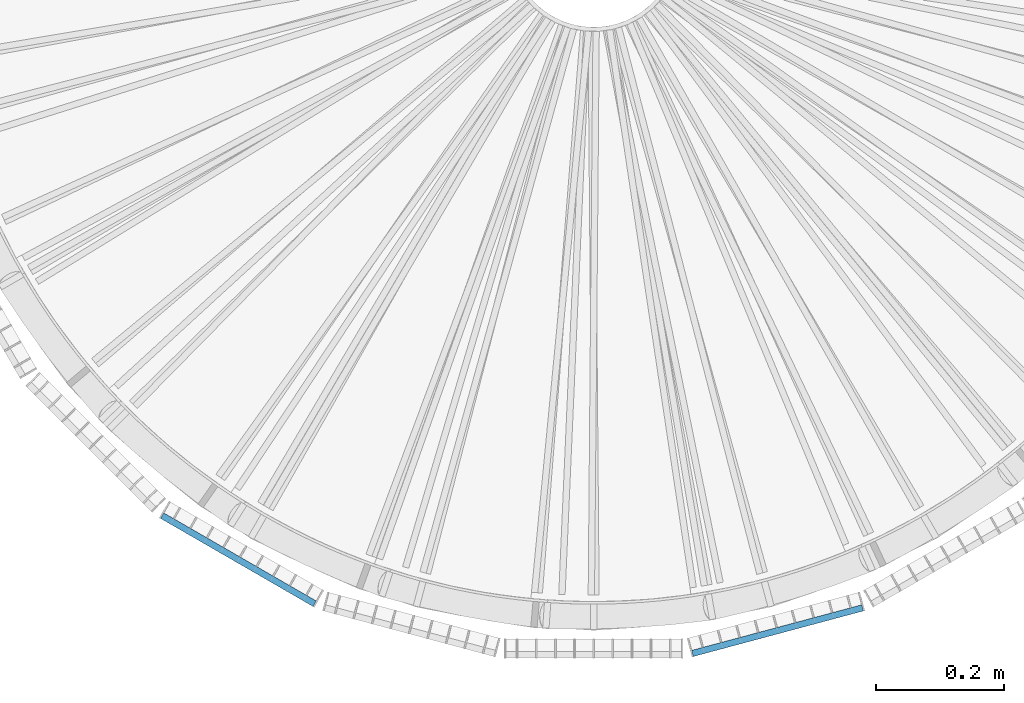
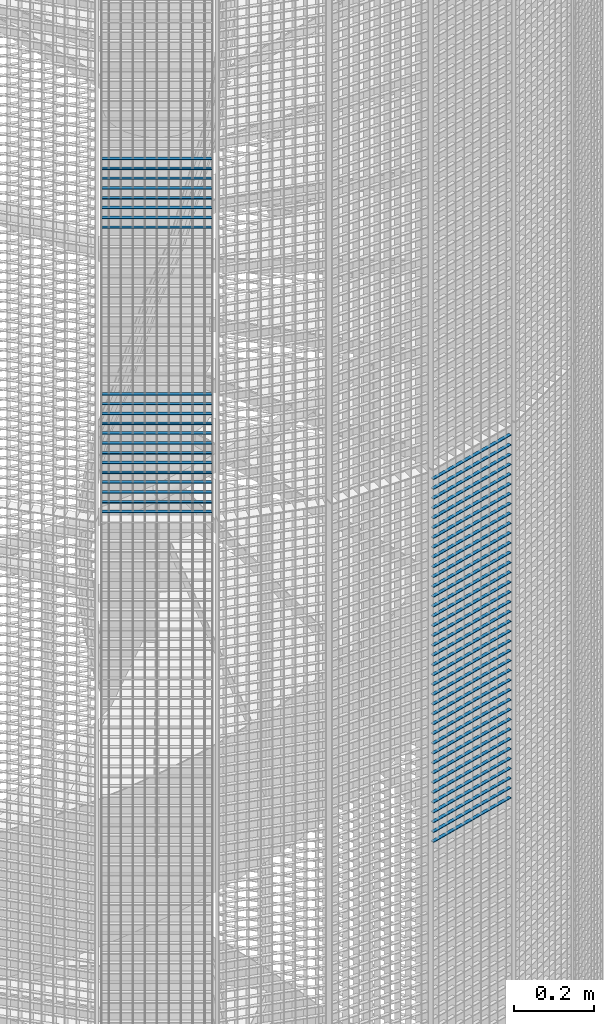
# One storey, part 161 of 1183: 59 beams, 2 elements without a shape of their own.
"""IFC2X3 building model written with IfcOpenShell, lengths in millimetres."""

from ifc_helpers import new_model, si_unit, frame, origin_with_axes, origin_2d_with_axis, place, context, subcontext, project, spatial, rectangle, extrude, material, type_object, element, aggregate, save


model = new_model("IFC2X3")

# Units and contexts
model_context = context("Model", 3, precision=1e-05, world=origin_with_axes())
body_context = subcontext(model_context, "Body", "Model", "MODEL_VIEW")
ifc_project = project(units=[si_unit("LENGTHUNIT", "METRE", prefix="MILLI"), si_unit("AREAUNIT", "SQUARE_METRE"), si_unit("VOLUMEUNIT", "CUBIC_METRE"), si_unit("MASSUNIT", "GRAM", prefix="KILO"), si_unit("TIMEUNIT", "SECOND"), si_unit("PLANEANGLEUNIT", "RADIAN"), si_unit("SOLIDANGLEUNIT", "STERADIAN"), si_unit("THERMODYNAMICTEMPERATUREUNIT", "DEGREE_CELSIUS"), si_unit("LUMINOUSINTENSITYUNIT", "LUMEN")], contexts=[model_context])

# Site, building, storey
site_placement = place(None, origin_with_axes())
site = spatial("IfcSite", under=ifc_project, at=site_placement, Name="Undefined", CompositionType="ELEMENT")
building_placement = place(site_placement, origin_with_axes())
building = spatial("IfcBuilding", under=site, at=building_placement, Name="Undefined", CompositionType="ELEMENT")
storey_placement = place(building_placement, origin_with_axes())
storey = spatial("IfcBuildingStorey", under=building, at=storey_placement, Name="Undefined", CompositionType="ELEMENT", Elevation=0.0)

# Assembly, beams
assembly_1_placement = place(storey_placement, origin_with_axes())
assembly_1 = element("IfcElementAssembly", 1, at=assembly_1_placement, inside=storey, Name="BORDURE", AssemblyPlace="NOTDEFINED", PredefinedType="NOTDEFINED")
ifc_material = material(Name="STEEL/S235JR")
beam_type = type_object("IfcBeamType", Name="PL2*10", PredefinedType="NOTDEFINED")
beam_1_placement = place(assembly_1_placement, frame((-676.248044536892, -895.303964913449, 6900.0), z_axis=(-0.49999999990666, -0.866025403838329, 0.0), x_axis=(0.866025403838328, -0.49999999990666, 0.0)))
beam_1 = element("IfcBeam", 2, at=beam_1_placement, type_object=beam_type, material=ifc_material, Name="ENTRETOISE", context=body_context, shape_type="SweptSolid", body=[
    extrude(rectangle(XDim=2.0, YDim=10.0, at=origin_2d_with_axis()), frame((275.999999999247, 9.09494701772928e-13, 1.53210777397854e-14), z_axis=(-1.0, 0.0, 0.0), x_axis=(0.0, -1.0, 0.0)), (0.0, 0.0, 1.0), 276.0),
])
beam_2_placement = place(assembly_1_placement, frame((-676.24804453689, -895.30396491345, 6390.0), z_axis=(-0.49999999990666, -0.866025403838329, 0.0), x_axis=(0.866025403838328, -0.49999999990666, 0.0)))
beam_2 = element("IfcBeam", 3, at=beam_2_placement, type_object=beam_type, material=ifc_material, Name="ENTRETOISE", context=body_context, shape_type="SweptSolid", body=[
    extrude(rectangle(XDim=2.0, YDim=10.0, at=origin_2d_with_axis()), frame((275.999999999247, 9.09494701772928e-13, 1.53210777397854e-14), z_axis=(-1.0, 0.0, 0.0), x_axis=(0.0, -1.0, 0.0)), (0.0, 0.0, 1.0), 276.0),
])
beam_3_placement = place(assembly_1_placement, frame((-676.248044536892, -895.303964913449, 6930.0), z_axis=(-0.49999999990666, -0.866025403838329, 0.0), x_axis=(0.866025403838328, -0.49999999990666, 0.0)))
beam_3 = element("IfcBeam", 4, at=beam_3_placement, type_object=beam_type, material=ifc_material, Name="ENTRETOISE", context=body_context, shape_type="SweptSolid", body=[
    extrude(rectangle(XDim=2.0, YDim=10.0, at=origin_2d_with_axis()), frame((275.999999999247, 9.09494701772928e-13, 1.53210777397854e-14), z_axis=(-1.0, 0.0, 0.0), x_axis=(0.0, -1.0, 0.0)), (0.0, 0.0, 1.0), 276.0),
])
beam_4_placement = place(assembly_1_placement, frame((-676.24804453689, -895.30396491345, 6360.0), z_axis=(-0.49999999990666, -0.866025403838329, 0.0), x_axis=(0.866025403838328, -0.49999999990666, 0.0)))
beam_4 = element("IfcBeam", 5, at=beam_4_placement, type_object=beam_type, material=ifc_material, Name="ENTRETOISE", context=body_context, shape_type="SweptSolid", body=[
    extrude(rectangle(XDim=2.0, YDim=10.0, at=origin_2d_with_axis()), frame((275.999999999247, 9.09494701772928e-13, 1.53210777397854e-14), z_axis=(-1.0, 0.0, 0.0), x_axis=(0.0, -1.0, 0.0)), (0.0, 0.0, 1.0), 276.0),
])
beam_5_placement = place(assembly_1_placement, frame((-676.24804453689, -895.30396491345, 6330.0), z_axis=(-0.49999999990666, -0.866025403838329, 0.0), x_axis=(0.866025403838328, -0.49999999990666, 0.0)))
beam_5 = element("IfcBeam", 6, at=beam_5_placement, type_object=beam_type, material=ifc_material, Name="ENTRETOISE", context=body_context, shape_type="SweptSolid", body=[
    extrude(rectangle(XDim=2.0, YDim=10.0, at=origin_2d_with_axis()), frame((275.999999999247, 9.09494701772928e-13, 1.53210777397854e-14), z_axis=(-1.0, 0.0, 0.0), x_axis=(0.0, -1.0, 0.0)), (0.0, 0.0, 1.0), 276.0),
])
beam_6_placement = place(assembly_1_placement, frame((-676.248044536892, -895.303964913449, 6960.0), z_axis=(-0.49999999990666, -0.866025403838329, 0.0), x_axis=(0.866025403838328, -0.49999999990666, 0.0)))
beam_6 = element("IfcBeam", 7, at=beam_6_placement, type_object=beam_type, material=ifc_material, Name="ENTRETOISE", context=body_context, shape_type="SweptSolid", body=[
    extrude(rectangle(XDim=2.0, YDim=10.0, at=origin_2d_with_axis()), frame((275.999999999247, 9.09494701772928e-13, 1.53210777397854e-14), z_axis=(-1.0, 0.0, 0.0), x_axis=(0.0, -1.0, 0.0)), (0.0, 0.0, 1.0), 276.0),
])
beam_7_placement = place(assembly_1_placement, frame((-676.24804453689, -895.30396491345, 6300.0), z_axis=(-0.49999999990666, -0.866025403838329, 0.0), x_axis=(0.866025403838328, -0.49999999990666, 0.0)))
beam_7 = element("IfcBeam", 8, at=beam_7_placement, type_object=beam_type, material=ifc_material, Name="ENTRETOISE", context=body_context, shape_type="SweptSolid", body=[
    extrude(rectangle(XDim=2.0, YDim=10.0, at=origin_2d_with_axis()), frame((275.999999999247, 9.09494701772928e-13, 1.53210777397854e-14), z_axis=(-1.0, 0.0, 0.0), x_axis=(0.0, -1.0, 0.0)), (0.0, 0.0, 1.0), 276.0),
])
beam_8_placement = place(assembly_1_placement, frame((-676.24804453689, -895.30396491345, 6270.0), z_axis=(-0.49999999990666, -0.866025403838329, 0.0), x_axis=(0.866025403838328, -0.49999999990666, 0.0)))
beam_8 = element("IfcBeam", 9, at=beam_8_placement, type_object=beam_type, material=ifc_material, Name="ENTRETOISE", context=body_context, shape_type="SweptSolid", body=[
    extrude(rectangle(XDim=2.0, YDim=10.0, at=origin_2d_with_axis()), frame((275.999999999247, 9.09494701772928e-13, 1.53210777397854e-14), z_axis=(-1.0, 0.0, 0.0), x_axis=(0.0, -1.0, 0.0)), (0.0, 0.0, 1.0), 276.0),
])
beam_9_placement = place(assembly_1_placement, frame((-676.248044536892, -895.303964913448, 6990.0), z_axis=(-0.49999999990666, -0.866025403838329, 0.0), x_axis=(0.866025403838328, -0.49999999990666, 0.0)))
beam_9 = element("IfcBeam", 10, at=beam_9_placement, type_object=beam_type, material=ifc_material, Name="ENTRETOISE", context=body_context, shape_type="SweptSolid", body=[
    extrude(rectangle(XDim=2.0, YDim=10.0, at=origin_2d_with_axis()), frame((275.999999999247, 9.09494701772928e-13, 1.53210777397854e-14), z_axis=(-1.0, 0.0, 0.0), x_axis=(0.0, -1.0, 0.0)), (0.0, 0.0, 1.0), 276.0),
])
beam_10_placement = place(assembly_1_placement, frame((-676.24804453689, -895.30396491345, 6240.0), z_axis=(-0.49999999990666, -0.866025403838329, 0.0), x_axis=(0.866025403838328, -0.49999999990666, 0.0)))
beam_10 = element("IfcBeam", 11, at=beam_10_placement, type_object=beam_type, material=ifc_material, Name="ENTRETOISE", context=body_context, shape_type="SweptSolid", body=[
    extrude(rectangle(XDim=2.0, YDim=10.0, at=origin_2d_with_axis()), frame((275.999999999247, 9.09494701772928e-13, 1.53210777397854e-14), z_axis=(-1.0, 0.0, 0.0), x_axis=(0.0, -1.0, 0.0)), (0.0, 0.0, 1.0), 276.0),
])
beam_11_placement = place(assembly_1_placement, frame((-676.248044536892, -895.303964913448, 7020.0), z_axis=(-0.49999999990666, -0.866025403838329, 0.0), x_axis=(0.866025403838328, -0.49999999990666, 0.0)))
beam_11 = element("IfcBeam", 12, at=beam_11_placement, type_object=beam_type, material=ifc_material, Name="ENTRETOISE", context=body_context, shape_type="SweptSolid", body=[
    extrude(rectangle(XDim=2.0, YDim=10.0, at=origin_2d_with_axis()), frame((275.999999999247, 9.09494701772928e-13, 1.53210777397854e-14), z_axis=(-1.0, 0.0, 0.0), x_axis=(0.0, -1.0, 0.0)), (0.0, 0.0, 1.0), 276.0),
])
beam_12_placement = place(assembly_1_placement, frame((-676.24804453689, -895.30396491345, 6210.0), z_axis=(-0.49999999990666, -0.866025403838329, 0.0), x_axis=(0.866025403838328, -0.49999999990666, 0.0)))
beam_12 = element("IfcBeam", 13, at=beam_12_placement, type_object=beam_type, material=ifc_material, Name="ENTRETOISE", context=body_context, shape_type="SweptSolid", body=[
    extrude(rectangle(XDim=2.0, YDim=10.0, at=origin_2d_with_axis()), frame((275.999999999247, 9.09494701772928e-13, 1.53210777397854e-14), z_axis=(-1.0, 0.0, 0.0), x_axis=(0.0, -1.0, 0.0)), (0.0, 0.0, 1.0), 276.0),
])
beam_13_placement = place(assembly_1_placement, frame((-676.24804453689, -895.30396491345, 6180.0), z_axis=(-0.49999999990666, -0.866025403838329, 0.0), x_axis=(0.866025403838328, -0.49999999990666, 0.0)))
beam_13 = element("IfcBeam", 14, at=beam_13_placement, type_object=beam_type, material=ifc_material, Name="ENTRETOISE", context=body_context, shape_type="SweptSolid", body=[
    extrude(rectangle(XDim=2.0, YDim=10.0, at=origin_2d_with_axis()), frame((275.999999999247, 9.09494701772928e-13, 1.53210777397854e-14), z_axis=(-1.0, 0.0, 0.0), x_axis=(0.0, -1.0, 0.0)), (0.0, 0.0, 1.0), 276.0),
])
beam_14_placement = place(assembly_1_placement, frame((-676.248044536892, -895.303964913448, 7050.0), z_axis=(-0.49999999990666, -0.866025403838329, 0.0), x_axis=(0.866025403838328, -0.49999999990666, 0.0)))
beam_14 = element("IfcBeam", 15, at=beam_14_placement, type_object=beam_type, material=ifc_material, Name="ENTRETOISE", context=body_context, shape_type="SweptSolid", body=[
    extrude(rectangle(XDim=2.0, YDim=10.0, at=origin_2d_with_axis()), frame((275.999999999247, 9.09494701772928e-13, 1.53210777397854e-14), z_axis=(-1.0, 0.0, 0.0), x_axis=(0.0, -1.0, 0.0)), (0.0, 0.0, 1.0), 276.0),
])
beam_15_placement = place(assembly_1_placement, frame((-676.24804453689, -895.30396491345, 6150.0), z_axis=(-0.49999999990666, -0.866025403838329, 0.0), x_axis=(0.866025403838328, -0.49999999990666, 0.0)))
beam_15 = element("IfcBeam", 16, at=beam_15_placement, type_object=beam_type, material=ifc_material, Name="ENTRETOISE", context=body_context, shape_type="SweptSolid", body=[
    extrude(rectangle(XDim=2.0, YDim=10.0, at=origin_2d_with_axis()), frame((275.999999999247, 9.09494701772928e-13, 1.53210777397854e-14), z_axis=(-1.0, 0.0, 0.0), x_axis=(0.0, -1.0, 0.0)), (0.0, 0.0, 1.0), 276.0),
])
beam_16_placement = place(assembly_1_placement, frame((-676.248044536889, -895.30396491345, 6120.0), z_axis=(-0.49999999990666, -0.866025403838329, 0.0), x_axis=(0.866025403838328, -0.49999999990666, 0.0)))
beam_16 = element("IfcBeam", 17, at=beam_16_placement, type_object=beam_type, material=ifc_material, Name="ENTRETOISE", context=body_context, shape_type="SweptSolid", body=[
    extrude(rectangle(XDim=2.0, YDim=10.0, at=origin_2d_with_axis()), frame((275.999999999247, 9.09494701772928e-13, 1.53210777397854e-14), z_axis=(-1.0, 0.0, 0.0), x_axis=(0.0, -1.0, 0.0)), (0.0, 0.0, 1.0), 276.0),
])
beam_17_placement = place(assembly_1_placement, frame((-676.248044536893, -895.303964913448, 7080.0), z_axis=(-0.49999999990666, -0.866025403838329, 0.0), x_axis=(0.866025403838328, -0.49999999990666, 0.0)))
beam_17 = element("IfcBeam", 18, at=beam_17_placement, type_object=beam_type, material=ifc_material, Name="ENTRETOISE", context=body_context, shape_type="SweptSolid", body=[
    extrude(rectangle(XDim=2.0, YDim=10.0, at=origin_2d_with_axis()), frame((275.999999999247, 9.09494701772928e-13, 1.53210777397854e-14), z_axis=(-1.0, 0.0, 0.0), x_axis=(0.0, -1.0, 0.0)), (0.0, 0.0, 1.0), 276.0),
])
beam_18_placement = place(assembly_1_placement, frame((-676.248044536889, -895.30396491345, 6090.0), z_axis=(-0.49999999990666, -0.866025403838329, 0.0), x_axis=(0.866025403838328, -0.49999999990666, 0.0)))
beam_18 = element("IfcBeam", 19, at=beam_18_placement, type_object=beam_type, material=ifc_material, Name="ENTRETOISE", context=body_context, shape_type="SweptSolid", body=[
    extrude(rectangle(XDim=2.0, YDim=10.0, at=origin_2d_with_axis()), frame((275.999999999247, 9.09494701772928e-13, 1.53210777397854e-14), z_axis=(-1.0, 0.0, 0.0), x_axis=(0.0, -1.0, 0.0)), (0.0, 0.0, 1.0), 276.0),
])
beam_19_placement = place(assembly_1_placement, frame((-676.248044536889, -895.30396491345, 6060.0), z_axis=(-0.49999999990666, -0.866025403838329, 0.0), x_axis=(0.866025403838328, -0.49999999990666, 0.0)))
beam_19 = element("IfcBeam", 20, at=beam_19_placement, type_object=beam_type, material=ifc_material, Name="ENTRETOISE", context=body_context, shape_type="SweptSolid", body=[
    extrude(rectangle(XDim=2.0, YDim=10.0, at=origin_2d_with_axis()), frame((275.999999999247, 9.09494701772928e-13, 1.53210777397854e-14), z_axis=(-1.0, 0.0, 0.0), x_axis=(0.0, -1.0, 0.0)), (0.0, 0.0, 1.0), 276.0),
])
beam_20_placement = place(assembly_1_placement, frame((-676.248044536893, -895.303964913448, 7110.0), z_axis=(-0.49999999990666, -0.866025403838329, 0.0), x_axis=(0.866025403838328, -0.49999999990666, 0.0)))
beam_20 = element("IfcBeam", 21, at=beam_20_placement, type_object=beam_type, material=ifc_material, Name="ENTRETOISE", context=body_context, shape_type="SweptSolid", body=[
    extrude(rectangle(XDim=2.0, YDim=10.0, at=origin_2d_with_axis()), frame((275.999999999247, 9.09494701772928e-13, 1.53210777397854e-14), z_axis=(-1.0, 0.0, 0.0), x_axis=(0.0, -1.0, 0.0)), (0.0, 0.0, 1.0), 276.0),
])
beam_21_placement = place(assembly_1_placement, frame((-676.248044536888, -895.30396491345, 6030.0), z_axis=(-0.49999999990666, -0.866025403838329, 0.0), x_axis=(0.866025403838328, -0.49999999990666, 0.0)))
beam_21 = element("IfcBeam", 22, at=beam_21_placement, type_object=beam_type, material=ifc_material, Name="ENTRETOISE", context=body_context, shape_type="SweptSolid", body=[
    extrude(rectangle(XDim=2.0, YDim=10.0, at=origin_2d_with_axis()), frame((275.999999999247, 9.09494701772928e-13, 1.53210777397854e-14), z_axis=(-1.0, 0.0, 0.0), x_axis=(0.0, -1.0, 0.0)), (0.0, 0.0, 1.0), 276.0),
])
aggregate(assembly_1, [beam_1, beam_2, beam_3, beam_4, beam_5, beam_6, beam_7, beam_8, beam_9, beam_10, beam_11, beam_12, beam_13, beam_14, beam_15, beam_16, beam_17, beam_18, beam_19, beam_20, beam_21])

assembly_2_placement = place(storey_placement, origin_with_axes())
assembly_2 = element("IfcElementAssembly", 23, at=assembly_2_placement, inside=storey, Name="BORDURE", AssemblyPlace="NOTDEFINED", PredefinedType="NOTDEFINED")
beam_22_placement = place(assembly_2_placement, frame((154.895926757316, -1111.25508286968, 5970.0), z_axis=(0.258819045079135, -0.965925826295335, 0.0), x_axis=(0.965925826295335, 0.258819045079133, 0.0)))
beam_22 = element("IfcBeam", 24, at=beam_22_placement, type_object=beam_type, material=ifc_material, Name="ENTRETOISE", context=body_context, shape_type="SweptSolid", body=[
    extrude(rectangle(XDim=2.0, YDim=10.0, at=origin_2d_with_axis()), frame((275.999999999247, 9.09494701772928e-13, 1.53210777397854e-14), z_axis=(-1.0, 0.0, 0.0), x_axis=(0.0, -1.0, 0.0)), (0.0, 0.0, 1.0), 276.0),
])
beam_23_placement = place(assembly_2_placement, frame((154.895926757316, -1111.25508286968, 5940.0), z_axis=(0.258819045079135, -0.965925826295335, 0.0), x_axis=(0.965925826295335, 0.258819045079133, 0.0)))
beam_23 = element("IfcBeam", 25, at=beam_23_placement, type_object=beam_type, material=ifc_material, Name="ENTRETOISE", context=body_context, shape_type="SweptSolid", body=[
    extrude(rectangle(XDim=2.0, YDim=10.0, at=origin_2d_with_axis()), frame((275.999999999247, 9.09494701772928e-13, 1.53210777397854e-14), z_axis=(-1.0, 0.0, 0.0), x_axis=(0.0, -1.0, 0.0)), (0.0, 0.0, 1.0), 276.0),
])
beam_24_placement = place(assembly_2_placement, frame((154.895926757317, -1111.25508286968, 5910.0), z_axis=(0.258819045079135, -0.965925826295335, 0.0), x_axis=(0.965925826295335, 0.258819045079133, 0.0)))
beam_24 = element("IfcBeam", 26, at=beam_24_placement, type_object=beam_type, material=ifc_material, Name="ENTRETOISE", context=body_context, shape_type="SweptSolid", body=[
    extrude(rectangle(XDim=2.0, YDim=10.0, at=origin_2d_with_axis()), frame((275.999999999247, 9.09494701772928e-13, 1.53210777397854e-14), z_axis=(-1.0, 0.0, 0.0), x_axis=(0.0, -1.0, 0.0)), (0.0, 0.0, 1.0), 276.0),
])
beam_25_placement = place(assembly_2_placement, frame((154.895926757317, -1111.25508286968, 5880.0), z_axis=(0.258819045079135, -0.965925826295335, 0.0), x_axis=(0.965925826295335, 0.258819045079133, 0.0)))
beam_25 = element("IfcBeam", 27, at=beam_25_placement, type_object=beam_type, material=ifc_material, Name="ENTRETOISE", context=body_context, shape_type="SweptSolid", body=[
    extrude(rectangle(XDim=2.0, YDim=10.0, at=origin_2d_with_axis()), frame((275.999999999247, 9.09494701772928e-13, 1.53210777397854e-14), z_axis=(-1.0, 0.0, 0.0), x_axis=(0.0, -1.0, 0.0)), (0.0, 0.0, 1.0), 276.0),
])
beam_26_placement = place(assembly_2_placement, frame((154.895926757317, -1111.25508286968, 5850.0), z_axis=(0.258819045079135, -0.965925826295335, 0.0), x_axis=(0.965925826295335, 0.258819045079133, 0.0)))
beam_26 = element("IfcBeam", 28, at=beam_26_placement, type_object=beam_type, material=ifc_material, Name="ENTRETOISE", context=body_context, shape_type="SweptSolid", body=[
    extrude(rectangle(XDim=2.0, YDim=10.0, at=origin_2d_with_axis()), frame((275.999999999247, 9.09494701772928e-13, 1.53210777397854e-14), z_axis=(-1.0, 0.0, 0.0), x_axis=(0.0, -1.0, 0.0)), (0.0, 0.0, 1.0), 276.0),
])
beam_27_placement = place(assembly_2_placement, frame((154.895926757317, -1111.25508286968, 5820.0), z_axis=(0.258819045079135, -0.965925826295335, 0.0), x_axis=(0.965925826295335, 0.258819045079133, 0.0)))
beam_27 = element("IfcBeam", 29, at=beam_27_placement, type_object=beam_type, material=ifc_material, Name="ENTRETOISE", context=body_context, shape_type="SweptSolid", body=[
    extrude(rectangle(XDim=2.0, YDim=10.0, at=origin_2d_with_axis()), frame((275.999999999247, 9.09494701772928e-13, 1.53210777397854e-14), z_axis=(-1.0, 0.0, 0.0), x_axis=(0.0, -1.0, 0.0)), (0.0, 0.0, 1.0), 276.0),
])
beam_28_placement = place(assembly_2_placement, frame((154.895926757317, -1111.25508286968, 5790.0), z_axis=(0.258819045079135, -0.965925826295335, 0.0), x_axis=(0.965925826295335, 0.258819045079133, 0.0)))
beam_28 = element("IfcBeam", 30, at=beam_28_placement, type_object=beam_type, material=ifc_material, Name="ENTRETOISE", context=body_context, shape_type="SweptSolid", body=[
    extrude(rectangle(XDim=2.0, YDim=10.0, at=origin_2d_with_axis()), frame((275.999999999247, 9.09494701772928e-13, 1.53210777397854e-14), z_axis=(-1.0, 0.0, 0.0), x_axis=(0.0, -1.0, 0.0)), (0.0, 0.0, 1.0), 276.0),
])
beam_29_placement = place(assembly_2_placement, frame((154.895926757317, -1111.25508286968, 5760.0), z_axis=(0.258819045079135, -0.965925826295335, 0.0), x_axis=(0.965925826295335, 0.258819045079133, 0.0)))
beam_29 = element("IfcBeam", 31, at=beam_29_placement, type_object=beam_type, material=ifc_material, Name="ENTRETOISE", context=body_context, shape_type="SweptSolid", body=[
    extrude(rectangle(XDim=2.0, YDim=10.0, at=origin_2d_with_axis()), frame((275.999999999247, 9.09494701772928e-13, 1.53210777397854e-14), z_axis=(-1.0, 0.0, 0.0), x_axis=(0.0, -1.0, 0.0)), (0.0, 0.0, 1.0), 276.0),
])
beam_30_placement = place(assembly_2_placement, frame((154.895926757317, -1111.25508286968, 5730.0), z_axis=(0.258819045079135, -0.965925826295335, 0.0), x_axis=(0.965925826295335, 0.258819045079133, 0.0)))
beam_30 = element("IfcBeam", 32, at=beam_30_placement, type_object=beam_type, material=ifc_material, Name="ENTRETOISE", context=body_context, shape_type="SweptSolid", body=[
    extrude(rectangle(XDim=2.0, YDim=10.0, at=origin_2d_with_axis()), frame((275.999999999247, 9.09494701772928e-13, 1.53210777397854e-14), z_axis=(-1.0, 0.0, 0.0), x_axis=(0.0, -1.0, 0.0)), (0.0, 0.0, 1.0), 276.0),
])
beam_31_placement = place(assembly_2_placement, frame((154.895926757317, -1111.25508286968, 5700.0), z_axis=(0.258819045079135, -0.965925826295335, 0.0), x_axis=(0.965925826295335, 0.258819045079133, 0.0)))
beam_31 = element("IfcBeam", 33, at=beam_31_placement, type_object=beam_type, material=ifc_material, Name="ENTRETOISE", context=body_context, shape_type="SweptSolid", body=[
    extrude(rectangle(XDim=2.0, YDim=10.0, at=origin_2d_with_axis()), frame((275.999999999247, 9.09494701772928e-13, 1.53210777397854e-14), z_axis=(-1.0, 0.0, 0.0), x_axis=(0.0, -1.0, 0.0)), (0.0, 0.0, 1.0), 276.0),
])
beam_32_placement = place(assembly_2_placement, frame((154.895926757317, -1111.25508286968, 5670.0), z_axis=(0.258819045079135, -0.965925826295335, 0.0), x_axis=(0.965925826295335, 0.258819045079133, 0.0)))
beam_32 = element("IfcBeam", 34, at=beam_32_placement, type_object=beam_type, material=ifc_material, Name="ENTRETOISE", context=body_context, shape_type="SweptSolid", body=[
    extrude(rectangle(XDim=2.0, YDim=10.0, at=origin_2d_with_axis()), frame((275.999999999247, 9.09494701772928e-13, 1.53210777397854e-14), z_axis=(-1.0, 0.0, 0.0), x_axis=(0.0, -1.0, 0.0)), (0.0, 0.0, 1.0), 276.0),
])
beam_33_placement = place(assembly_2_placement, frame((154.895926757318, -1111.25508286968, 5640.0), z_axis=(0.258819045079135, -0.965925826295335, 0.0), x_axis=(0.965925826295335, 0.258819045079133, 0.0)))
beam_33 = element("IfcBeam", 35, at=beam_33_placement, type_object=beam_type, material=ifc_material, Name="ENTRETOISE", context=body_context, shape_type="SweptSolid", body=[
    extrude(rectangle(XDim=2.0, YDim=10.0, at=origin_2d_with_axis()), frame((275.999999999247, 9.09494701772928e-13, 1.53210777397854e-14), z_axis=(-1.0, 0.0, 0.0), x_axis=(0.0, -1.0, 0.0)), (0.0, 0.0, 1.0), 276.0),
])
beam_34_placement = place(assembly_2_placement, frame((154.895926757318, -1111.25508286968, 5610.0), z_axis=(0.258819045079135, -0.965925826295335, 0.0), x_axis=(0.965925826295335, 0.258819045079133, 0.0)))
beam_34 = element("IfcBeam", 36, at=beam_34_placement, type_object=beam_type, material=ifc_material, Name="ENTRETOISE", context=body_context, shape_type="SweptSolid", body=[
    extrude(rectangle(XDim=2.0, YDim=10.0, at=origin_2d_with_axis()), frame((275.999999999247, 9.09494701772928e-13, 1.53210777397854e-14), z_axis=(-1.0, 0.0, 0.0), x_axis=(0.0, -1.0, 0.0)), (0.0, 0.0, 1.0), 276.0),
])
beam_35_placement = place(assembly_2_placement, frame((154.895926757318, -1111.25508286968, 5580.0), z_axis=(0.258819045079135, -0.965925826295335, 0.0), x_axis=(0.965925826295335, 0.258819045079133, 0.0)))
beam_35 = element("IfcBeam", 37, at=beam_35_placement, type_object=beam_type, material=ifc_material, Name="ENTRETOISE", context=body_context, shape_type="SweptSolid", body=[
    extrude(rectangle(XDim=2.0, YDim=10.0, at=origin_2d_with_axis()), frame((275.999999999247, 9.09494701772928e-13, 1.53210777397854e-14), z_axis=(-1.0, 0.0, 0.0), x_axis=(0.0, -1.0, 0.0)), (0.0, 0.0, 1.0), 276.0),
])
beam_36_placement = place(assembly_2_placement, frame((154.895926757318, -1111.25508286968, 5550.0), z_axis=(0.258819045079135, -0.965925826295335, 0.0), x_axis=(0.965925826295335, 0.258819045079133, 0.0)))
beam_36 = element("IfcBeam", 38, at=beam_36_placement, type_object=beam_type, material=ifc_material, Name="ENTRETOISE", context=body_context, shape_type="SweptSolid", body=[
    extrude(rectangle(XDim=2.0, YDim=10.0, at=origin_2d_with_axis()), frame((275.999999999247, 9.09494701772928e-13, 1.53210777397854e-14), z_axis=(-1.0, 0.0, 0.0), x_axis=(0.0, -1.0, 0.0)), (0.0, 0.0, 1.0), 276.0),
])
beam_37_placement = place(assembly_2_placement, frame((154.895926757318, -1111.25508286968, 5520.0), z_axis=(0.258819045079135, -0.965925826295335, 0.0), x_axis=(0.965925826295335, 0.258819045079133, 0.0)))
beam_37 = element("IfcBeam", 39, at=beam_37_placement, type_object=beam_type, material=ifc_material, Name="ENTRETOISE", context=body_context, shape_type="SweptSolid", body=[
    extrude(rectangle(XDim=2.0, YDim=10.0, at=origin_2d_with_axis()), frame((275.999999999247, 9.09494701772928e-13, 1.53210777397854e-14), z_axis=(-1.0, 0.0, 0.0), x_axis=(0.0, -1.0, 0.0)), (0.0, 0.0, 1.0), 276.0),
])
beam_38_placement = place(assembly_2_placement, frame((154.895926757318, -1111.25508286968, 5490.0), z_axis=(0.258819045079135, -0.965925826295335, 0.0), x_axis=(0.965925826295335, 0.258819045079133, 0.0)))
beam_38 = element("IfcBeam", 40, at=beam_38_placement, type_object=beam_type, material=ifc_material, Name="ENTRETOISE", context=body_context, shape_type="SweptSolid", body=[
    extrude(rectangle(XDim=2.0, YDim=10.0, at=origin_2d_with_axis()), frame((275.999999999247, 9.09494701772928e-13, 1.53210777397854e-14), z_axis=(-1.0, 0.0, 0.0), x_axis=(0.0, -1.0, 0.0)), (0.0, 0.0, 1.0), 276.0),
])
beam_39_placement = place(assembly_2_placement, frame((154.895926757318, -1111.25508286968, 5460.0), z_axis=(0.258819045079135, -0.965925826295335, 0.0), x_axis=(0.965925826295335, 0.258819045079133, 0.0)))
beam_39 = element("IfcBeam", 41, at=beam_39_placement, type_object=beam_type, material=ifc_material, Name="ENTRETOISE", context=body_context, shape_type="SweptSolid", body=[
    extrude(rectangle(XDim=2.0, YDim=10.0, at=origin_2d_with_axis()), frame((275.999999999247, 9.09494701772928e-13, 1.53210777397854e-14), z_axis=(-1.0, 0.0, 0.0), x_axis=(0.0, -1.0, 0.0)), (0.0, 0.0, 1.0), 276.0),
])
beam_40_placement = place(assembly_2_placement, frame((154.895926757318, -1111.25508286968, 5430.0), z_axis=(0.258819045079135, -0.965925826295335, 0.0), x_axis=(0.965925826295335, 0.258819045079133, 0.0)))
beam_40 = element("IfcBeam", 42, at=beam_40_placement, type_object=beam_type, material=ifc_material, Name="ENTRETOISE", context=body_context, shape_type="SweptSolid", body=[
    extrude(rectangle(XDim=2.0, YDim=10.0, at=origin_2d_with_axis()), frame((275.999999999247, 9.09494701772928e-13, 1.53210777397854e-14), z_axis=(-1.0, 0.0, 0.0), x_axis=(0.0, -1.0, 0.0)), (0.0, 0.0, 1.0), 276.0),
])
beam_41_placement = place(assembly_2_placement, frame((154.895926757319, -1111.25508286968, 5400.0), z_axis=(0.258819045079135, -0.965925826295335, 0.0), x_axis=(0.965925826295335, 0.258819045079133, 0.0)))
beam_41 = element("IfcBeam", 43, at=beam_41_placement, type_object=beam_type, material=ifc_material, Name="ENTRETOISE", context=body_context, shape_type="SweptSolid", body=[
    extrude(rectangle(XDim=2.0, YDim=10.0, at=origin_2d_with_axis()), frame((275.999999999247, 9.09494701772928e-13, 1.53210777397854e-14), z_axis=(-1.0, 0.0, 0.0), x_axis=(0.0, -1.0, 0.0)), (0.0, 0.0, 1.0), 276.0),
])
beam_42_placement = place(assembly_2_placement, frame((154.895926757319, -1111.25508286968, 5370.0), z_axis=(0.258819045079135, -0.965925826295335, 0.0), x_axis=(0.965925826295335, 0.258819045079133, 0.0)))
beam_42 = element("IfcBeam", 44, at=beam_42_placement, type_object=beam_type, material=ifc_material, Name="ENTRETOISE", context=body_context, shape_type="SweptSolid", body=[
    extrude(rectangle(XDim=2.0, YDim=10.0, at=origin_2d_with_axis()), frame((275.999999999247, 9.09494701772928e-13, 1.53210777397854e-14), z_axis=(-1.0, 0.0, 0.0), x_axis=(0.0, -1.0, 0.0)), (0.0, 0.0, 1.0), 276.0),
])
beam_43_placement = place(assembly_2_placement, frame((154.895926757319, -1111.25508286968, 5340.0), z_axis=(0.258819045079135, -0.965925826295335, 0.0), x_axis=(0.965925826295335, 0.258819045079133, 0.0)))
beam_43 = element("IfcBeam", 45, at=beam_43_placement, type_object=beam_type, material=ifc_material, Name="ENTRETOISE", context=body_context, shape_type="SweptSolid", body=[
    extrude(rectangle(XDim=2.0, YDim=10.0, at=origin_2d_with_axis()), frame((275.999999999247, 9.09494701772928e-13, 1.53210777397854e-14), z_axis=(-1.0, 0.0, 0.0), x_axis=(0.0, -1.0, 0.0)), (0.0, 0.0, 1.0), 276.0),
])
beam_44_placement = place(assembly_2_placement, frame((154.895926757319, -1111.25508286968, 5310.0), z_axis=(0.258819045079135, -0.965925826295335, 0.0), x_axis=(0.965925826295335, 0.258819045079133, 0.0)))
beam_44 = element("IfcBeam", 46, at=beam_44_placement, type_object=beam_type, material=ifc_material, Name="ENTRETOISE", context=body_context, shape_type="SweptSolid", body=[
    extrude(rectangle(XDim=2.0, YDim=10.0, at=origin_2d_with_axis()), frame((275.999999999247, 9.09494701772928e-13, 1.53210777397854e-14), z_axis=(-1.0, 0.0, 0.0), x_axis=(0.0, -1.0, 0.0)), (0.0, 0.0, 1.0), 276.0),
])
beam_45_placement = place(assembly_2_placement, frame((154.895926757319, -1111.25508286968, 5280.0), z_axis=(0.258819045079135, -0.965925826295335, 0.0), x_axis=(0.965925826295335, 0.258819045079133, 0.0)))
beam_45 = element("IfcBeam", 47, at=beam_45_placement, type_object=beam_type, material=ifc_material, Name="ENTRETOISE", context=body_context, shape_type="SweptSolid", body=[
    extrude(rectangle(XDim=2.0, YDim=10.0, at=origin_2d_with_axis()), frame((275.999999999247, 9.09494701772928e-13, 1.53210777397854e-14), z_axis=(-1.0, 0.0, 0.0), x_axis=(0.0, -1.0, 0.0)), (0.0, 0.0, 1.0), 276.0),
])
beam_46_placement = place(assembly_2_placement, frame((154.895926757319, -1111.25508286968, 5250.0), z_axis=(0.258819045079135, -0.965925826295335, 0.0), x_axis=(0.965925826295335, 0.258819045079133, 0.0)))
beam_46 = element("IfcBeam", 48, at=beam_46_placement, type_object=beam_type, material=ifc_material, Name="ENTRETOISE", context=body_context, shape_type="SweptSolid", body=[
    extrude(rectangle(XDim=2.0, YDim=10.0, at=origin_2d_with_axis()), frame((275.999999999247, 9.09494701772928e-13, 1.53210777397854e-14), z_axis=(-1.0, 0.0, 0.0), x_axis=(0.0, -1.0, 0.0)), (0.0, 0.0, 1.0), 276.0),
])
beam_47_placement = place(assembly_2_placement, frame((154.895926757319, -1111.25508286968, 5220.0), z_axis=(0.258819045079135, -0.965925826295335, 0.0), x_axis=(0.965925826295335, 0.258819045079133, 0.0)))
beam_47 = element("IfcBeam", 49, at=beam_47_placement, type_object=beam_type, material=ifc_material, Name="ENTRETOISE", context=body_context, shape_type="SweptSolid", body=[
    extrude(rectangle(XDim=2.0, YDim=10.0, at=origin_2d_with_axis()), frame((275.999999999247, 9.09494701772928e-13, 1.53210777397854e-14), z_axis=(-1.0, 0.0, 0.0), x_axis=(0.0, -1.0, 0.0)), (0.0, 0.0, 1.0), 276.0),
])
beam_48_placement = place(assembly_2_placement, frame((154.895926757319, -1111.25508286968, 5190.0), z_axis=(0.258819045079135, -0.965925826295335, 0.0), x_axis=(0.965925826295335, 0.258819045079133, 0.0)))
beam_48 = element("IfcBeam", 50, at=beam_48_placement, type_object=beam_type, material=ifc_material, Name="ENTRETOISE", context=body_context, shape_type="SweptSolid", body=[
    extrude(rectangle(XDim=2.0, YDim=10.0, at=origin_2d_with_axis()), frame((275.999999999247, 9.09494701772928e-13, 1.53210777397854e-14), z_axis=(-1.0, 0.0, 0.0), x_axis=(0.0, -1.0, 0.0)), (0.0, 0.0, 1.0), 276.0),
])
beam_49_placement = place(assembly_2_placement, frame((154.895926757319, -1111.25508286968, 5160.0), z_axis=(0.258819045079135, -0.965925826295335, 0.0), x_axis=(0.965925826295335, 0.258819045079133, 0.0)))
beam_49 = element("IfcBeam", 51, at=beam_49_placement, type_object=beam_type, material=ifc_material, Name="ENTRETOISE", context=body_context, shape_type="SweptSolid", body=[
    extrude(rectangle(XDim=2.0, YDim=10.0, at=origin_2d_with_axis()), frame((275.999999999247, 9.09494701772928e-13, 1.53210777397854e-14), z_axis=(-1.0, 0.0, 0.0), x_axis=(0.0, -1.0, 0.0)), (0.0, 0.0, 1.0), 276.0),
])
beam_50_placement = place(assembly_2_placement, frame((154.89592675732, -1111.25508286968, 5130.0), z_axis=(0.258819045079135, -0.965925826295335, 0.0), x_axis=(0.965925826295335, 0.258819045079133, 0.0)))
beam_50 = element("IfcBeam", 52, at=beam_50_placement, type_object=beam_type, material=ifc_material, Name="ENTRETOISE", context=body_context, shape_type="SweptSolid", body=[
    extrude(rectangle(XDim=2.0, YDim=10.0, at=origin_2d_with_axis()), frame((275.999999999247, 9.09494701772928e-13, 1.53210777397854e-14), z_axis=(-1.0, 0.0, 0.0), x_axis=(0.0, -1.0, 0.0)), (0.0, 0.0, 1.0), 276.0),
])
beam_51_placement = place(assembly_2_placement, frame((154.89592675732, -1111.25508286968, 5100.0), z_axis=(0.258819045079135, -0.965925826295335, 0.0), x_axis=(0.965925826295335, 0.258819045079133, 0.0)))
beam_51 = element("IfcBeam", 53, at=beam_51_placement, type_object=beam_type, material=ifc_material, Name="ENTRETOISE", context=body_context, shape_type="SweptSolid", body=[
    extrude(rectangle(XDim=2.0, YDim=10.0, at=origin_2d_with_axis()), frame((275.999999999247, 9.09494701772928e-13, 1.53210777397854e-14), z_axis=(-1.0, 0.0, 0.0), x_axis=(0.0, -1.0, 0.0)), (0.0, 0.0, 1.0), 276.0),
])
beam_52_placement = place(assembly_2_placement, frame((154.89592675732, -1111.25508286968, 5070.0), z_axis=(0.258819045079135, -0.965925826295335, 0.0), x_axis=(0.965925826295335, 0.258819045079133, 0.0)))
beam_52 = element("IfcBeam", 54, at=beam_52_placement, type_object=beam_type, material=ifc_material, Name="ENTRETOISE", context=body_context, shape_type="SweptSolid", body=[
    extrude(rectangle(XDim=2.0, YDim=10.0, at=origin_2d_with_axis()), frame((275.999999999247, 9.09494701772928e-13, 1.53210777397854e-14), z_axis=(-1.0, 0.0, 0.0), x_axis=(0.0, -1.0, 0.0)), (0.0, 0.0, 1.0), 276.0),
])
beam_53_placement = place(assembly_2_placement, frame((154.89592675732, -1111.25508286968, 5040.0), z_axis=(0.258819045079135, -0.965925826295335, 0.0), x_axis=(0.965925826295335, 0.258819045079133, 0.0)))
beam_53 = element("IfcBeam", 55, at=beam_53_placement, type_object=beam_type, material=ifc_material, Name="ENTRETOISE", context=body_context, shape_type="SweptSolid", body=[
    extrude(rectangle(XDim=2.0, YDim=10.0, at=origin_2d_with_axis()), frame((275.999999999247, 9.09494701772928e-13, 1.53210777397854e-14), z_axis=(-1.0, 0.0, 0.0), x_axis=(0.0, -1.0, 0.0)), (0.0, 0.0, 1.0), 276.0),
])
beam_54_placement = place(assembly_2_placement, frame((154.89592675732, -1111.25508286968, 5010.0), z_axis=(0.258819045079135, -0.965925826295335, 0.0), x_axis=(0.965925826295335, 0.258819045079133, 0.0)))
beam_54 = element("IfcBeam", 56, at=beam_54_placement, type_object=beam_type, material=ifc_material, Name="ENTRETOISE", context=body_context, shape_type="SweptSolid", body=[
    extrude(rectangle(XDim=2.0, YDim=10.0, at=origin_2d_with_axis()), frame((275.999999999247, 9.09494701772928e-13, 1.53210777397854e-14), z_axis=(-1.0, 0.0, 0.0), x_axis=(0.0, -1.0, 0.0)), (0.0, 0.0, 1.0), 276.0),
])
beam_55_placement = place(assembly_2_placement, frame((154.89592675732, -1111.25508286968, 4980.0), z_axis=(0.258819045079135, -0.965925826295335, 0.0), x_axis=(0.965925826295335, 0.258819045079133, 0.0)))
beam_55 = element("IfcBeam", 57, at=beam_55_placement, type_object=beam_type, material=ifc_material, Name="ENTRETOISE", context=body_context, shape_type="SweptSolid", body=[
    extrude(rectangle(XDim=2.0, YDim=10.0, at=origin_2d_with_axis()), frame((275.999999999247, 9.09494701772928e-13, 1.53210777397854e-14), z_axis=(-1.0, 0.0, 0.0), x_axis=(0.0, -1.0, 0.0)), (0.0, 0.0, 1.0), 276.0),
])
beam_56_placement = place(assembly_2_placement, frame((154.89592675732, -1111.25508286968, 4950.0), z_axis=(0.258819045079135, -0.965925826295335, 0.0), x_axis=(0.965925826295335, 0.258819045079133, 0.0)))
beam_56 = element("IfcBeam", 58, at=beam_56_placement, type_object=beam_type, material=ifc_material, Name="ENTRETOISE", context=body_context, shape_type="SweptSolid", body=[
    extrude(rectangle(XDim=2.0, YDim=10.0, at=origin_2d_with_axis()), frame((275.999999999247, 9.09494701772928e-13, 1.53210777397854e-14), z_axis=(-1.0, 0.0, 0.0), x_axis=(0.0, -1.0, 0.0)), (0.0, 0.0, 1.0), 276.0),
])
beam_57_placement = place(assembly_2_placement, frame((154.89592675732, -1111.25508286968, 4920.0), z_axis=(0.258819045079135, -0.965925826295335, 0.0), x_axis=(0.965925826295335, 0.258819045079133, 0.0)))
beam_57 = element("IfcBeam", 59, at=beam_57_placement, type_object=beam_type, material=ifc_material, Name="ENTRETOISE", context=body_context, shape_type="SweptSolid", body=[
    extrude(rectangle(XDim=2.0, YDim=10.0, at=origin_2d_with_axis()), frame((275.999999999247, 9.09494701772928e-13, 1.53210777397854e-14), z_axis=(-1.0, 0.0, 0.0), x_axis=(0.0, -1.0, 0.0)), (0.0, 0.0, 1.0), 276.0),
])
beam_58_placement = place(assembly_2_placement, frame((154.89592675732, -1111.25508286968, 4890.0), z_axis=(0.258819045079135, -0.965925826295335, 0.0), x_axis=(0.965925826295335, 0.258819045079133, 0.0)))
beam_58 = element("IfcBeam", 60, at=beam_58_placement, type_object=beam_type, material=ifc_material, Name="ENTRETOISE", context=body_context, shape_type="SweptSolid", body=[
    extrude(rectangle(XDim=2.0, YDim=10.0, at=origin_2d_with_axis()), frame((275.999999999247, 9.09494701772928e-13, 1.53210777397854e-14), z_axis=(-1.0, 0.0, 0.0), x_axis=(0.0, -1.0, 0.0)), (0.0, 0.0, 1.0), 276.0),
])
beam_59_placement = place(assembly_2_placement, frame((154.89592675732, -1111.25508286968, 4860.0), z_axis=(0.258819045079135, -0.965925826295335, 0.0), x_axis=(0.965925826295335, 0.258819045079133, 0.0)))
beam_59 = element("IfcBeam", 61, at=beam_59_placement, type_object=beam_type, material=ifc_material, Name="ENTRETOISE", context=body_context, shape_type="SweptSolid", body=[
    extrude(rectangle(XDim=2.0, YDim=10.0, at=origin_2d_with_axis()), frame((275.999999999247, 9.09494701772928e-13, 1.53210777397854e-14), z_axis=(-1.0, 0.0, 0.0), x_axis=(0.0, -1.0, 0.0)), (0.0, 0.0, 1.0), 276.0),
])
aggregate(assembly_2, [beam_22, beam_23, beam_24, beam_25, beam_26, beam_27, beam_28, beam_29, beam_30, beam_31, beam_32, beam_33, beam_34, beam_35, beam_36, beam_37, beam_38, beam_39, beam_40, beam_41, beam_42, beam_43, beam_44, beam_45, beam_46, beam_47, beam_48, beam_49, beam_50, beam_51, beam_52, beam_53, beam_54, beam_55, beam_56, beam_57, beam_58, beam_59])

save(model, "model.ifc")
